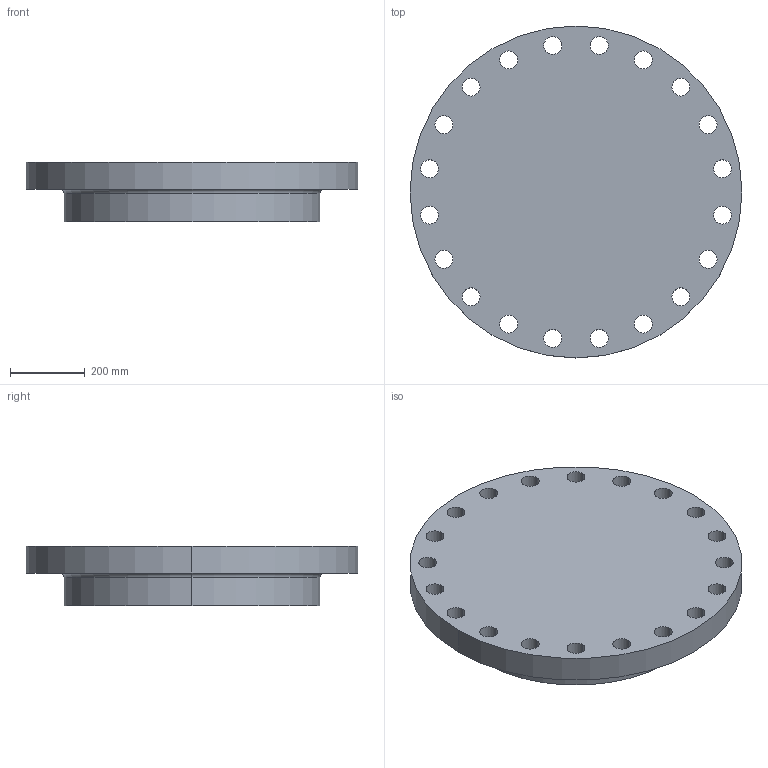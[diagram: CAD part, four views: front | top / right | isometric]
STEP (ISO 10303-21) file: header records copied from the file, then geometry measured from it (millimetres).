
FILE_DESCRIPTION (( 'STEP AP214' ), '1' );
FILE_NAME ('PN40 DN600 Type 21(i) - Type A Face.STEP', '2018-12-29T04:41:31', ( '' ), ( '' ), 'SwSTEP 2.0', 'SolidWorks 2019', '' );
FILE_SCHEMA (( 'AUTOMOTIVE_DESIGN' ));
Length unit declared in the file: millimetre
Products named in the file (1): PN40 DN600 Type 21(i) - Type A Face
Bounding box: 890 x 890 x 160 mm (x, y, z)
Volume: 74778817.5 mm3; surface area: 1768921.4 mm2
Topology: 1 solids, 1 shells, 49 faces, 136 edges, 90 vertices
Faces by surface type: cylinder 44, plane 3, torus 2
Entity records: 1740 total; most frequent: DIRECTION 328, CARTESIAN_POINT 276, ORIENTED_EDGE 272, AXIS2_PLACEMENT_3D 142, EDGE_CURVE 136, CIRCLE 92, EDGE_LOOP 90, VERTEX_POINT 90
